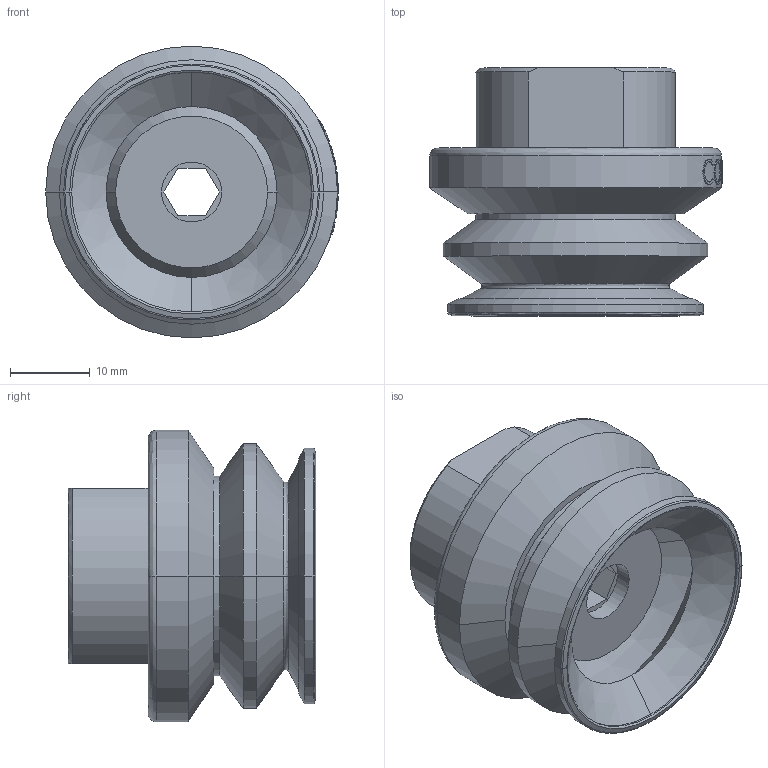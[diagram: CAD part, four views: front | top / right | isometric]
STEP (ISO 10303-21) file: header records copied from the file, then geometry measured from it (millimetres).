
FILE_DESCRIPTION (( 'STEP AP214' ), '1' );
FILE_NAME ('VBC30.STEP', '2019-11-26T03:22:14', ( '微软用户' ), ( '微软中国' ), 'SwSTEP 2.0', 'SolidWorks 2016', '' );
FILE_SCHEMA (( 'AUTOMOTIVE_DESIGN' ));
Length unit declared in the file: millimetre
Products named in the file (1): VBC30
Bounding box: 36.6 x 31 x 36.5 mm (x, y, z)
Volume: 13084.9 mm3; surface area: 7652.8 mm2
Topology: 1 solids, 1 shells, 120 faces, 291 edges, 184 vertices
Faces by surface type: bspline 37, plane 29, cylinder 28, cone 26
Entity records: 14077 total; most frequent: CARTESIAN_POINT 10062, ORIENTED_EDGE 582, DIRECTION 501, EDGE_CURVE 291, AXIS2_PLACEMENT_3D 191, VERTEX_POINT 184, EDGE_LOOP 133, UNCERTAINTY_MEASURE_WITH_UNIT 123
